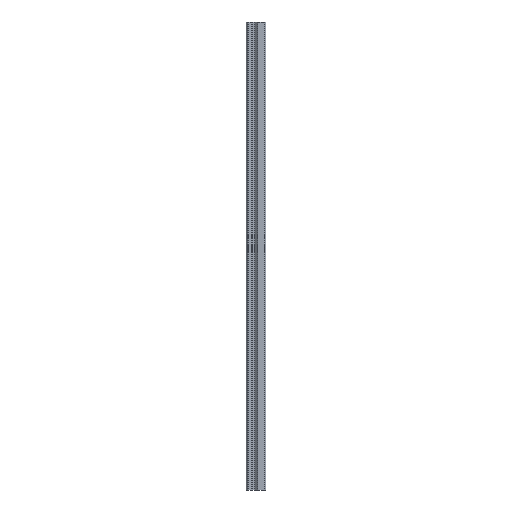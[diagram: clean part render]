
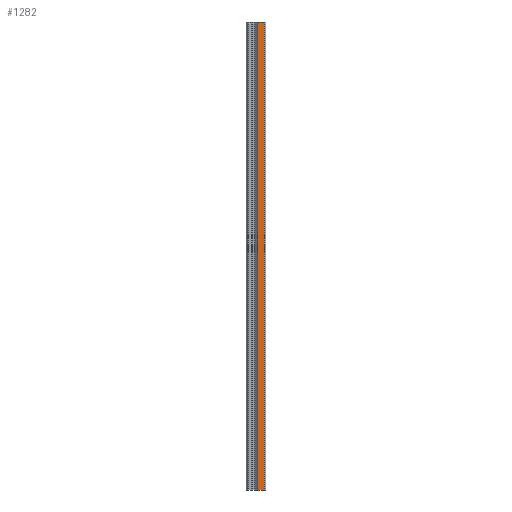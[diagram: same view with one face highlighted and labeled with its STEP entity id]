
A CAD part, left-side view. The second image highlights one B-rep face of the part: STEP entity #1282.
In plain terms, the highlighted planar face has unit normal (-1, 0, 0).
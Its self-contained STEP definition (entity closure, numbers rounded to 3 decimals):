
#57 = CARTESIAN_POINT ( 'NONE',  ( -11.5, 19.2, -230. ) ) ;
#102 = CARTESIAN_POINT ( 'NONE',  ( -11.5, 19.2, 230. ) ) ;
#217 = EDGE_CURVE ( 'NONE', #656, #2267, #2289, .T. ) ;
#221 = CARTESIAN_POINT ( 'NONE',  ( -11.5, 1.25, 230. ) ) ;
#271 = DIRECTION ( 'NONE',  ( 0., 1., 0. ) ) ;
#284 = CARTESIAN_POINT ( 'NONE',  ( -11.5, 7.95, 230. ) ) ;
#303 = VECTOR ( 'NONE', #1090, 1000. ) ;
#304 = AXIS2_PLACEMENT_3D ( 'NONE', #102, #663, #271 ) ;
#386 = LINE ( 'NONE', #57, #1648 ) ;
#398 = VERTEX_POINT ( 'NONE', #1794 ) ;
#421 = DIRECTION ( 'NONE',  ( 0., -1., 0. ) ) ;
#519 = CARTESIAN_POINT ( 'NONE',  ( -11.5, 7.95, -230. ) ) ;
#656 = VERTEX_POINT ( 'NONE', #284 ) ;
#663 = DIRECTION ( 'NONE',  ( 1., 0., 0. ) ) ;
#680 = ORIENTED_EDGE ( 'NONE', *, *, #2261, .T. ) ;
#708 = FACE_OUTER_BOUND ( 'NONE', #1572, .T. ) ;
#722 = CARTESIAN_POINT ( 'NONE',  ( -11.5, 7.95, -230. ) ) ;
#971 = ORIENTED_EDGE ( 'NONE', *, *, #217, .F. ) ;
#1003 = PLANE ( 'NONE',  #304 ) ;
#1017 = EDGE_CURVE ( 'NONE', #398, #2267, #1740, .T. ) ;
#1029 = ORIENTED_EDGE ( 'NONE', *, *, #1446, .F. ) ;
#1090 = DIRECTION ( 'NONE',  ( 0., 0., 1. ) ) ;
#1282 = ADVANCED_FACE ( 'NONE', ( #708 ), #1003, .F. ) ;
#1375 = VERTEX_POINT ( 'NONE', #519 ) ;
#1380 = DIRECTION ( 'NONE',  ( 0., -1., 0. ) ) ;
#1446 = EDGE_CURVE ( 'NONE', #1375, #656, #1793, .T. ) ;
#1572 = EDGE_LOOP ( 'NONE', ( #680, #1953, #971, #1029 ) ) ;
#1648 = VECTOR ( 'NONE', #421, 1000. ) ;
#1740 = LINE ( 'NONE', #221, #2374 ) ;
#1793 = LINE ( 'NONE', #722, #303 ) ;
#1794 = CARTESIAN_POINT ( 'NONE',  ( -11.5, 1.25, -230. ) ) ;
#1920 = CARTESIAN_POINT ( 'NONE',  ( -11.5, 19.2, 230. ) ) ;
#1953 = ORIENTED_EDGE ( 'NONE', *, *, #1017, .T. ) ;
#2047 = DIRECTION ( 'NONE',  ( 0., 0., 1. ) ) ;
#2059 = VECTOR ( 'NONE', #1380, 1000. ) ;
#2249 = CARTESIAN_POINT ( 'NONE',  ( -11.5, 1.25, 230. ) ) ;
#2261 = EDGE_CURVE ( 'NONE', #1375, #398, #386, .T. ) ;
#2267 = VERTEX_POINT ( 'NONE', #2249 ) ;
#2289 = LINE ( 'NONE', #1920, #2059 ) ;
#2374 = VECTOR ( 'NONE', #2047, 1000. ) ;
